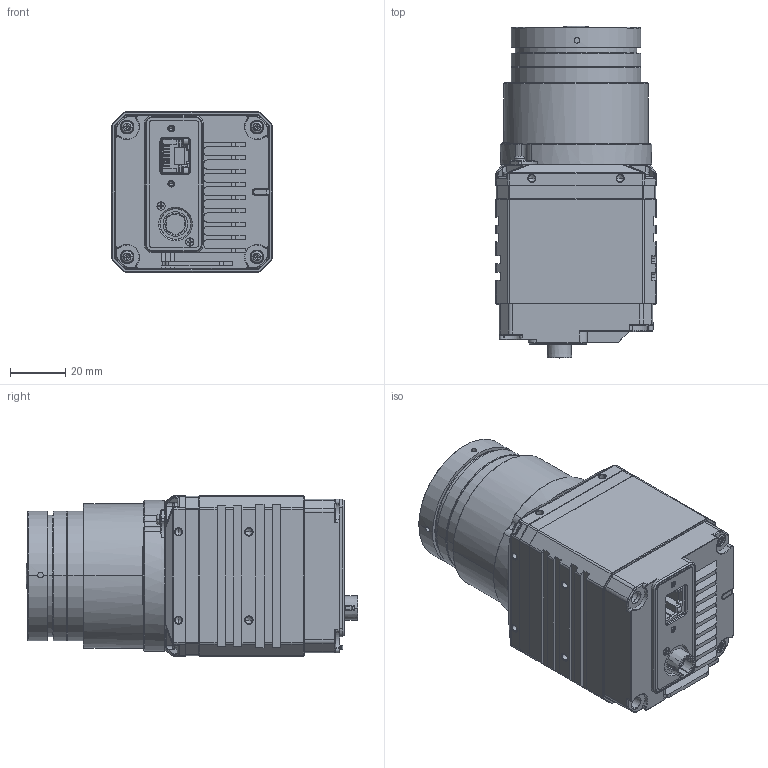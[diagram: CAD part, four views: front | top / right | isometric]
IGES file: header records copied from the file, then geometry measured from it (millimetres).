
Start section:  PTC IGES file: 00-all--0001_asm-1.igs
Global section: file name: 00-all--0001_asm-1.igs; native system: Creo Parametric by PTC Inc.; preprocessor: 2017260; author: gengdawei; organization: Unknown; date: 20210604.115725; units: millimetre
Bounding box: 58 x 120.29 x 58 mm (x, y, z)
Volume: 295413.7 mm3; surface area: 45241.3 mm2
Topology: 1 solids, 30 shells, 2624 faces, 6994 edges, 4451 vertices
Faces by surface type: bspline 1492, revolution 1132
